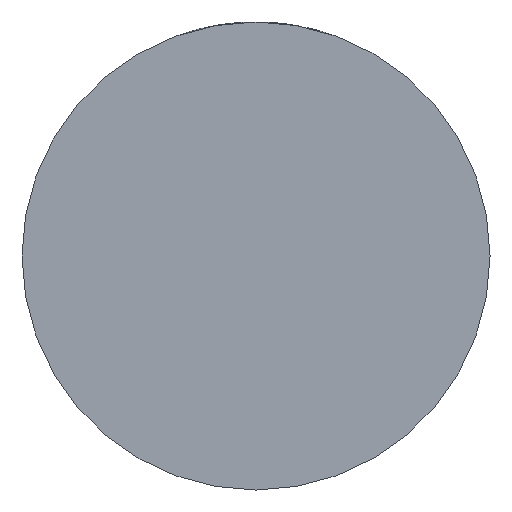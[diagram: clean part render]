
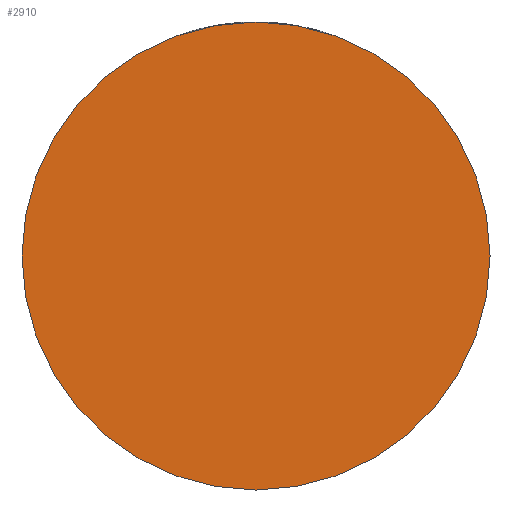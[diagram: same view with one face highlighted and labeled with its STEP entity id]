
A CAD part, front view. The second image highlights one B-rep face of the part: STEP entity #2910.
In plain terms, the highlighted planar face has unit normal (0, -1, 0).
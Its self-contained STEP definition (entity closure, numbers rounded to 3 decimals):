
#128 = PLANE ( 'NONE',  #3966 ) ;
#215 = CARTESIAN_POINT ( 'NONE',  ( -32.5, -26., 0. ) ) ;
#350 = VERTEX_POINT ( 'NONE', #215 ) ;
#800 = CIRCLE ( 'NONE', #4110, 32.5 ) ;
#916 = DIRECTION ( 'NONE',  ( 1., 0., 0. ) ) ;
#1060 = DIRECTION ( 'NONE',  ( 0., -1., 0. ) ) ;
#1496 = FACE_OUTER_BOUND ( 'NONE', #2264, .T. ) ;
#1667 = AXIS2_PLACEMENT_3D ( 'NONE', #1871, #3251, #916 ) ;
#1871 = CARTESIAN_POINT ( 'NONE',  ( 0., -26., 0. ) ) ;
#2195 = CARTESIAN_POINT ( 'NONE',  ( 0., -26., 0. ) ) ;
#2207 = EDGE_CURVE ( 'NONE', #4001, #350, #800, .T. ) ;
#2218 = DIRECTION ( 'NONE',  ( 0., -1., 0. ) ) ;
#2264 = EDGE_LOOP ( 'NONE', ( #3592, #4209 ) ) ;
#2910 = ADVANCED_FACE ( 'NONE', ( #1496 ), #128, .T. ) ;
#3251 = DIRECTION ( 'NONE',  ( 0., -1., 0. ) ) ;
#3402 = CIRCLE ( 'NONE', #1667, 32.5 ) ;
#3540 = CARTESIAN_POINT ( 'NONE',  ( 0., -26., 0. ) ) ;
#3592 = ORIENTED_EDGE ( 'NONE', *, *, #4213, .T. ) ;
#3737 = CARTESIAN_POINT ( 'NONE',  ( 32.5, -26., 0. ) ) ;
#3857 = DIRECTION ( 'NONE',  ( 1., 0., 0. ) ) ;
#3966 = AXIS2_PLACEMENT_3D ( 'NONE', #2195, #2218, #4242 ) ;
#4001 = VERTEX_POINT ( 'NONE', #3737 ) ;
#4110 = AXIS2_PLACEMENT_3D ( 'NONE', #3540, #1060, #3857 ) ;
#4209 = ORIENTED_EDGE ( 'NONE', *, *, #2207, .T. ) ;
#4213 = EDGE_CURVE ( 'NONE', #350, #4001, #3402, .T. ) ;
#4242 = DIRECTION ( 'NONE',  ( 1., 0., 0. ) ) ;
